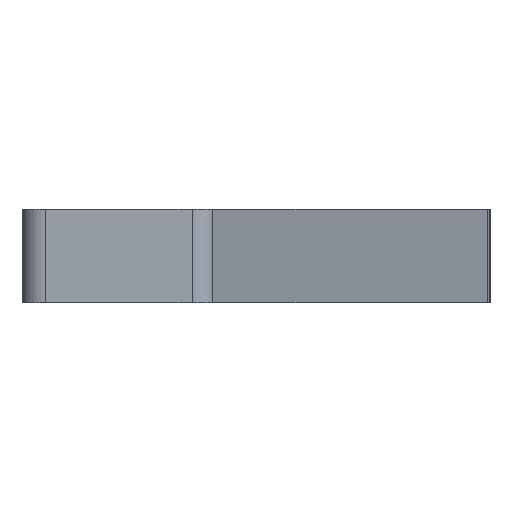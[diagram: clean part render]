
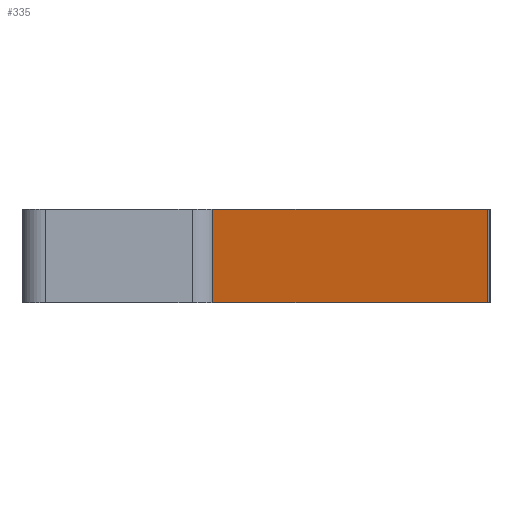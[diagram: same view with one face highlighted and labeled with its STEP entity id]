
A CAD part, left-side view. The second image highlights one B-rep face of the part: STEP entity #335.
In plain terms, the highlighted planar face has unit normal (-0.46, -0.888, 0).
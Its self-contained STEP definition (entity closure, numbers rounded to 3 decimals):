
#27=PLANE('',#391);
#45=FACE_OUTER_BOUND('',#65,.T.);
#65=EDGE_LOOP('',(#293,#294,#295,#296));
#77=LINE('',#525,#105);
#79=LINE('',#539,#107);
#91=LINE('',#570,#119);
#96=LINE('',#588,#124);
#105=VECTOR('',#419,10.);
#107=VECTOR('',#433,10.);
#119=VECTOR('',#469,10.);
#124=VECTOR('',#492,10.);
#154=VERTEX_POINT('',#522);
#155=VERTEX_POINT('',#524);
#161=VERTEX_POINT('',#537);
#168=VERTEX_POINT('',#568);
#186=EDGE_CURVE('',#154,#155,#77,.T.);
#193=EDGE_CURVE('',#161,#154,#79,.T.);
#209=EDGE_CURVE('',#155,#168,#91,.T.);
#218=EDGE_CURVE('',#168,#161,#96,.T.);
#293=ORIENTED_EDGE('',*,*,#193,.F.);
#294=ORIENTED_EDGE('',*,*,#218,.F.);
#295=ORIENTED_EDGE('',*,*,#209,.F.);
#296=ORIENTED_EDGE('',*,*,#186,.F.);
#335=ADVANCED_FACE('',(#45),#27,.T.);
#391=AXIS2_PLACEMENT_3D('',#587,#490,#491);
#419=DIRECTION('',(0.888,-0.46,0.));
#433=DIRECTION('',(0.,0.,1.));
#469=DIRECTION('',(0.,0.,-1.));
#490=DIRECTION('center_axis',(-0.46,-0.888,0.));
#491=DIRECTION('ref_axis',(-0.888,0.46,0.));
#492=DIRECTION('',(-0.888,0.46,0.));
#522=CARTESIAN_POINT('',(-40.059,0.834,0.));
#524=CARTESIAN_POINT('',(-28.737,-5.032,0.));
#525=CARTESIAN_POINT('',(-40.329,0.974,0.));
#537=CARTESIAN_POINT('',(-40.059,0.834,-2.));
#539=CARTESIAN_POINT('',(-40.059,0.834,0.));
#568=CARTESIAN_POINT('',(-28.737,-5.032,-2.));
#570=CARTESIAN_POINT('',(-28.737,-5.032,0.));
#587=CARTESIAN_POINT('Origin',(-28.629,-5.088,0.));
#588=CARTESIAN_POINT('',(-40.329,0.974,-2.));
